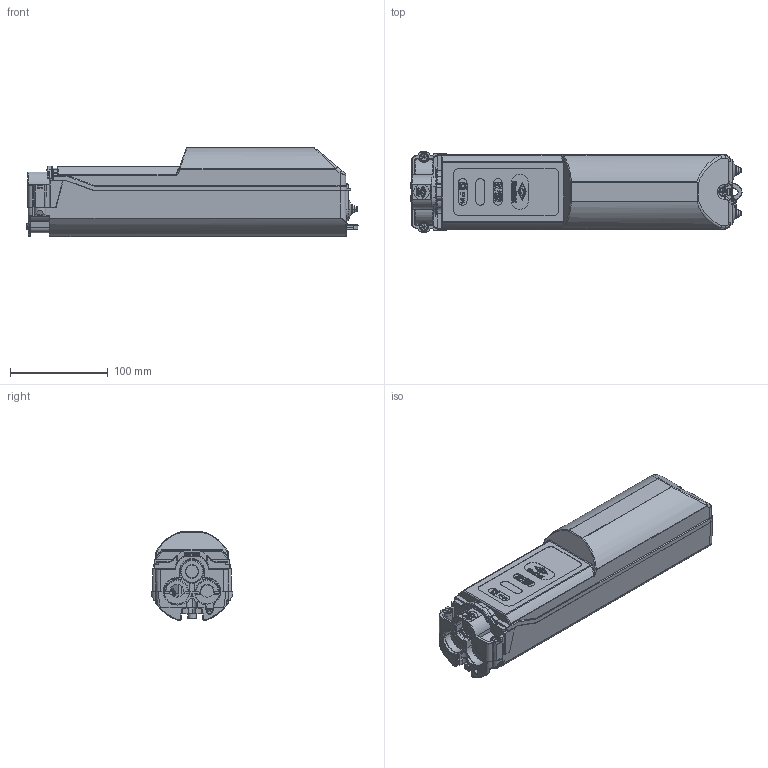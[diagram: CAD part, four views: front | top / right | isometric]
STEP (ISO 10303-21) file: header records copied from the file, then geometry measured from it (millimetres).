
FILE_DESCRIPTION (( 'STEP AP203' ), '1' );
FILE_NAME ('3D - HSW2537 Außenkontur.STEP', '2019-06-28T08:53:07', ( '' ), ( '' ), 'SwSTEP 2.0', 'SolidWorks 2013', '' );
FILE_SCHEMA (( 'CONFIG_CONTROL_DESIGN' ));
Length unit declared in the file: millimetre
Products named in the file (1): 3D - HSW2537 Außenkontur
Bounding box: 339.54 x 83.5 x 91.11 mm (x, y, z)
Surface area: 127171.9 mm2 (no closed solid volume)
Topology: 0 solids, 27 shells, 1143 faces, 4194 edges, 2983 vertices
Faces by surface type: plane 509, cylinder 303, bspline 131, cone 101, torus 93, sphere 6
Entity records: 54644 total; most frequent: CARTESIAN_POINT 21326, ORIENTED_EDGE 6636, DIRECTION 6277, EDGE_CURVE 4186, VERTEX_POINT 2983, LINE 2419, VECTOR 2419, AXIS2_PLACEMENT_3D 1929
